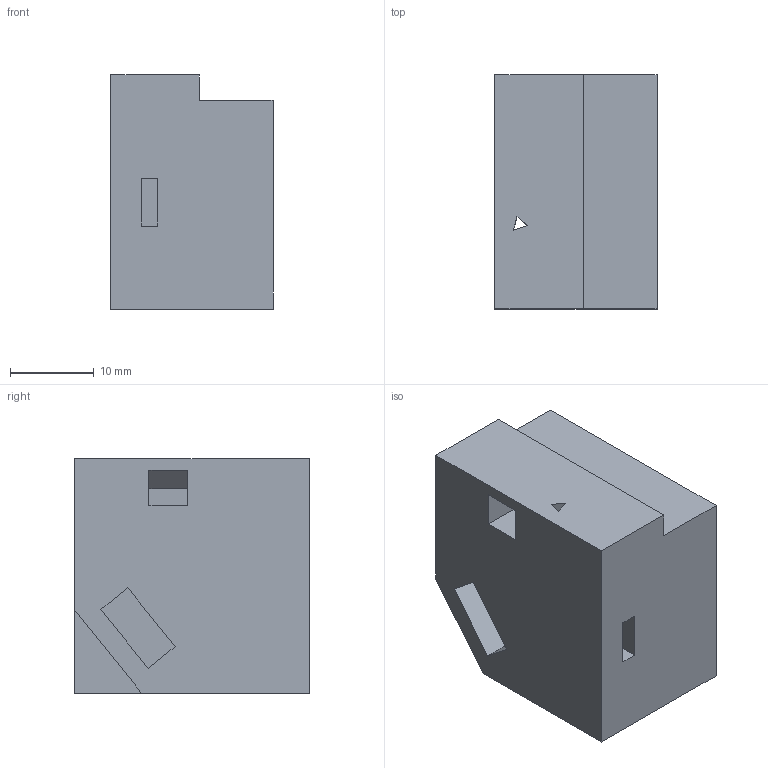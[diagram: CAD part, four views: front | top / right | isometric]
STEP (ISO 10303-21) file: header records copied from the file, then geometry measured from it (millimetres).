
FILE_DESCRIPTION(('Open CASCADE Model'),'2;1');
FILE_NAME('Open CASCADE Shape Model','2021-04-30T10:54:41',('Author'),( 'Open CASCADE'),'Open CASCADE STEP processor 7.4','Open CASCADE 7.4' ,'Unknown');
FILE_SCHEMA(('AUTOMOTIVE_DESIGN { 1 0 10303 214 1 1 1 1 }'));
Length unit declared in the file: millimetre
Products named in the file (1): Open CASCADE STEP translator 7.4 290
Bounding box: 19.36 x 27.97 x 27.96 mm (x, y, z)
Volume: 13580.7 mm3; surface area: 4251.3 mm2
Topology: 1 solids, 1 shells, 29 faces, 72 edges, 48 vertices
Faces by surface type: plane 29
Entity records: 1790 total; most frequent: CARTESIAN_POINT 300, DIRECTION 270, LINE 210, VECTOR 210, ORIENTED_EDGE 144, PCURVE 144, DEFINITIONAL_REPRESENTATION 144, EDGE_CURVE 72
